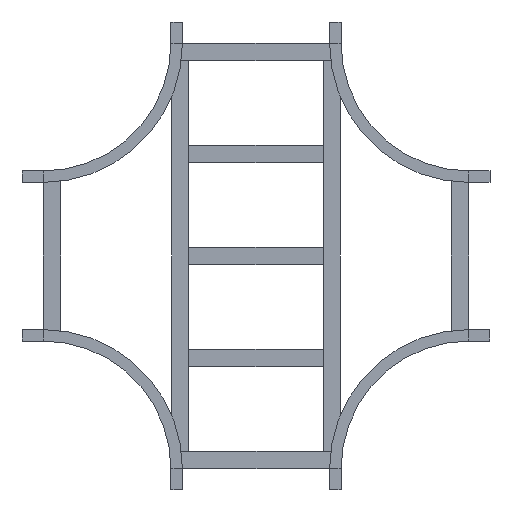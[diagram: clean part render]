
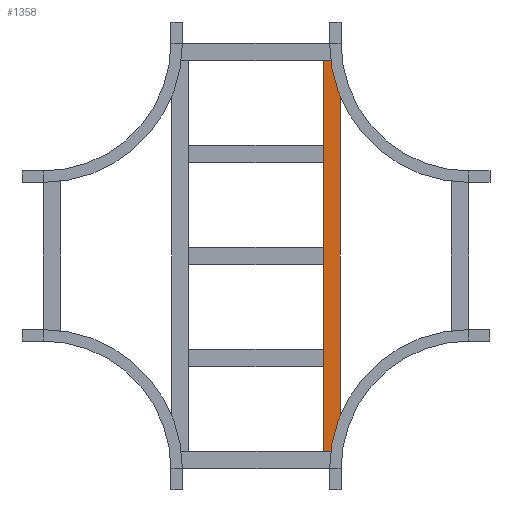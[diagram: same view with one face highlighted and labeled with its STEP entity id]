
A CAD part, front view. The second image highlights one B-rep face of the part: STEP entity #1358.
In plain terms, the highlighted planar face has unit normal (0, -1, 0).
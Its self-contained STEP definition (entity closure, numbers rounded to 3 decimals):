
#136 = CARTESIAN_POINT ( 'NONE',  ( 459.5, 0., -20.25 ) ) ;
#159 = ORIENTED_EDGE ( 'NONE', *, *, #754, .T. ) ;
#166 = DIRECTION ( 'NONE',  ( 0., 0., -1. ) ) ;
#215 = VECTOR ( 'NONE', #499, 1000. ) ;
#280 = LINE ( 'NONE', #1035, #671 ) ;
#296 = DIRECTION ( 'NONE',  ( 0., 1., 0. ) ) ;
#388 = ORIENTED_EDGE ( 'NONE', *, *, #462, .T. ) ;
#396 = DIRECTION ( 'NONE',  ( 0., 0., 1. ) ) ;
#426 = ORIENTED_EDGE ( 'NONE', *, *, #1143, .F. ) ;
#459 = LINE ( 'NONE', #1215, #215 ) ;
#462 = EDGE_CURVE ( 'NONE', #720, #698, #1148, .T. ) ;
#496 = EDGE_CURVE ( 'NONE', #852, #1309, #459, .T. ) ;
#499 = DIRECTION ( 'NONE',  ( 0., 0., -1. ) ) ;
#514 = FACE_OUTER_BOUND ( 'NONE', #816, .T. ) ;
#603 = DIRECTION ( 'NONE',  ( -1., 0., 0. ) ) ;
#671 = VECTOR ( 'NONE', #603, 1000. ) ;
#698 = VERTEX_POINT ( 'NONE', #1027 ) ;
#720 = VERTEX_POINT ( 'NONE', #1233 ) ;
#726 = AXIS2_PLACEMENT_3D ( 'NONE', #1273, #296, #396 ) ;
#754 = EDGE_CURVE ( 'NONE', #852, #720, #280, .T. ) ;
#784 = VECTOR ( 'NONE', #166, 1000. ) ;
#816 = EDGE_LOOP ( 'NONE', ( #388, #426, #861, #159 ) ) ;
#838 = PLANE ( 'NONE',  #726 ) ;
#852 = VERTEX_POINT ( 'NONE', #941 ) ;
#861 = ORIENTED_EDGE ( 'NONE', *, *, #496, .F. ) ;
#922 = LINE ( 'NONE', #136, #1227 ) ;
#941 = CARTESIAN_POINT ( 'NONE',  ( 459.5, 0., 20.25 ) ) ;
#949 = CARTESIAN_POINT ( 'NONE',  ( 459.5, 0., -20.25 ) ) ;
#1027 = CARTESIAN_POINT ( 'NONE',  ( -459.5, 0., -20.25 ) ) ;
#1034 = DIRECTION ( 'NONE',  ( -1., 0., 0. ) ) ;
#1035 = CARTESIAN_POINT ( 'NONE',  ( 459.5, 0., 20.25 ) ) ;
#1045 = CARTESIAN_POINT ( 'NONE',  ( -459.5, 0., 20.25 ) ) ;
#1143 = EDGE_CURVE ( 'NONE', #1309, #698, #922, .T. ) ;
#1148 = LINE ( 'NONE', #1045, #784 ) ;
#1215 = CARTESIAN_POINT ( 'NONE',  ( 459.5, 0., 20.25 ) ) ;
#1227 = VECTOR ( 'NONE', #1034, 1000. ) ;
#1233 = CARTESIAN_POINT ( 'NONE',  ( -459.5, 0., 20.25 ) ) ;
#1273 = CARTESIAN_POINT ( 'NONE',  ( 459.5, 0., 20.25 ) ) ;
#1309 = VERTEX_POINT ( 'NONE', #949 ) ;
#1358 = ADVANCED_FACE ( 'NONE', ( #514 ), #838, .F. ) ;
